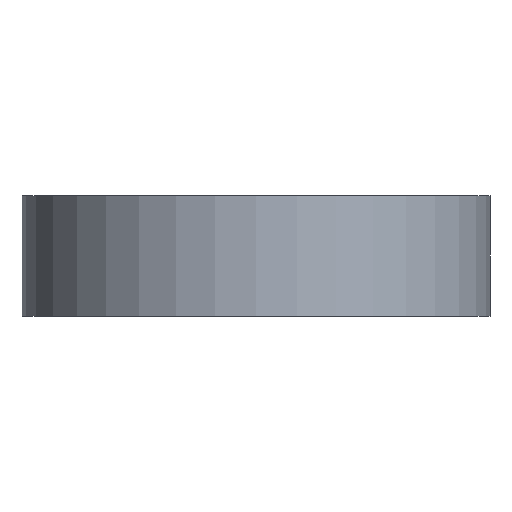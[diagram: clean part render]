
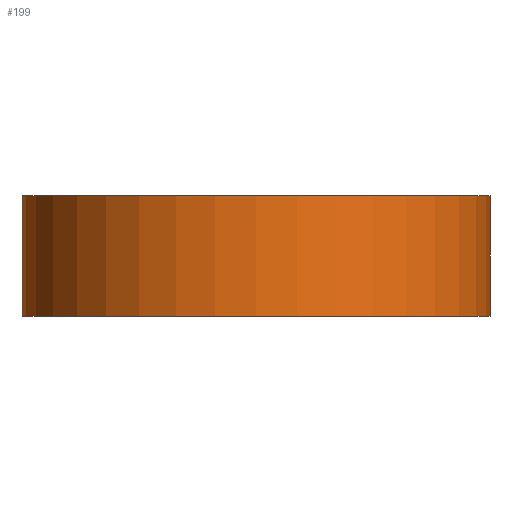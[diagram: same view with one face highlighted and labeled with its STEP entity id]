
A CAD part, front view. The second image highlights one B-rep face of the part: STEP entity #199.
In plain terms, the highlighted cylindrical face has radius 31 mm (diameter 62 mm), a full revolution.
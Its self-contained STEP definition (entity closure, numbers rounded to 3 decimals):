
#199 = ADVANCED_FACE('',(#200),#213,.T.);
#200 = FACE_BOUND('',#201,.T.);
#201 = EDGE_LOOP('',(#202,#236,#259,#286));
#202 = ORIENTED_EDGE('',*,*,#203,.F.);
#203 = EDGE_CURVE('',#204,#204,#206,.T.);
#204 = VERTEX_POINT('',#205);
#205 = CARTESIAN_POINT('',(31.,0.,8.));
#206 = SURFACE_CURVE('',#207,(#212,#224),.PCURVE_S1.);
#207 = CIRCLE('',#208,31.);
#208 = AXIS2_PLACEMENT_3D('',#209,#210,#211);
#209 = CARTESIAN_POINT('',(0.,0.,8.));
#210 = DIRECTION('',(0.,0.,1.));
#211 = DIRECTION('',(1.,0.,-0.));
#212 = PCURVE('',#213,#218);
#213 = CYLINDRICAL_SURFACE('',#214,31.);
#214 = AXIS2_PLACEMENT_3D('',#215,#216,#217);
#215 = CARTESIAN_POINT('',(0.,0.,-8.));
#216 = DIRECTION('',(0.,0.,1.));
#217 = DIRECTION('',(1.,0.,-0.));
#218 = DEFINITIONAL_REPRESENTATION('',(#219),#223);
#219 = LINE('',#220,#221);
#220 = CARTESIAN_POINT('',(0.,16.));
#221 = VECTOR('',#222,1.);
#222 = DIRECTION('',(1.,0.));
#223 = ( GEOMETRIC_REPRESENTATION_CONTEXT(2) 
PARAMETRIC_REPRESENTATION_CONTEXT() REPRESENTATION_CONTEXT('2D SPACE',''
  ) );
#224 = PCURVE('',#225,#230);
#225 = PLANE('',#226);
#226 = AXIS2_PLACEMENT_3D('',#227,#228,#229);
#227 = CARTESIAN_POINT('',(0.,0.,8.));
#228 = DIRECTION('',(0.,0.,1.));
#229 = DIRECTION('',(1.,0.,-0.));
#230 = DEFINITIONAL_REPRESENTATION('',(#231),#235);
#231 = CIRCLE('',#232,31.);
#232 = AXIS2_PLACEMENT_2D('',#233,#234);
#233 = CARTESIAN_POINT('',(0.,0.));
#234 = DIRECTION('',(1.,0.));
#235 = ( GEOMETRIC_REPRESENTATION_CONTEXT(2) 
PARAMETRIC_REPRESENTATION_CONTEXT() REPRESENTATION_CONTEXT('2D SPACE',''
  ) );
#236 = ORIENTED_EDGE('',*,*,#237,.F.);
#237 = EDGE_CURVE('',#238,#204,#240,.T.);
#238 = VERTEX_POINT('',#239);
#239 = CARTESIAN_POINT('',(31.,0.,-8.));
#240 = SEAM_CURVE('',#241,(#245,#252),.PCURVE_S1.);
#241 = LINE('',#242,#243);
#242 = CARTESIAN_POINT('',(31.,0.,-8.));
#243 = VECTOR('',#244,1.);
#244 = DIRECTION('',(0.,0.,1.));
#245 = PCURVE('',#213,#246);
#246 = DEFINITIONAL_REPRESENTATION('',(#247),#251);
#247 = LINE('',#248,#249);
#248 = CARTESIAN_POINT('',(6.283,-0.));
#249 = VECTOR('',#250,1.);
#250 = DIRECTION('',(0.,1.));
#251 = ( GEOMETRIC_REPRESENTATION_CONTEXT(2) 
PARAMETRIC_REPRESENTATION_CONTEXT() REPRESENTATION_CONTEXT('2D SPACE',''
  ) );
#252 = PCURVE('',#213,#253);
#253 = DEFINITIONAL_REPRESENTATION('',(#254),#258);
#254 = LINE('',#255,#256);
#255 = CARTESIAN_POINT('',(0.,-0.));
#256 = VECTOR('',#257,1.);
#257 = DIRECTION('',(0.,1.));
#258 = ( GEOMETRIC_REPRESENTATION_CONTEXT(2) 
PARAMETRIC_REPRESENTATION_CONTEXT() REPRESENTATION_CONTEXT('2D SPACE',''
  ) );
#259 = ORIENTED_EDGE('',*,*,#260,.T.);
#260 = EDGE_CURVE('',#238,#238,#261,.T.);
#261 = SURFACE_CURVE('',#262,(#267,#274),.PCURVE_S1.);
#262 = CIRCLE('',#263,31.);
#263 = AXIS2_PLACEMENT_3D('',#264,#265,#266);
#264 = CARTESIAN_POINT('',(0.,0.,-8.));
#265 = DIRECTION('',(0.,0.,1.));
#266 = DIRECTION('',(1.,0.,-0.));
#267 = PCURVE('',#213,#268);
#268 = DEFINITIONAL_REPRESENTATION('',(#269),#273);
#269 = LINE('',#270,#271);
#270 = CARTESIAN_POINT('',(0.,0.));
#271 = VECTOR('',#272,1.);
#272 = DIRECTION('',(1.,0.));
#273 = ( GEOMETRIC_REPRESENTATION_CONTEXT(2) 
PARAMETRIC_REPRESENTATION_CONTEXT() REPRESENTATION_CONTEXT('2D SPACE',''
  ) );
#274 = PCURVE('',#275,#280);
#275 = PLANE('',#276);
#276 = AXIS2_PLACEMENT_3D('',#277,#278,#279);
#277 = CARTESIAN_POINT('',(0.,0.,-8.));
#278 = DIRECTION('',(0.,0.,1.));
#279 = DIRECTION('',(1.,0.,-0.));
#280 = DEFINITIONAL_REPRESENTATION('',(#281),#285);
#281 = CIRCLE('',#282,31.);
#282 = AXIS2_PLACEMENT_2D('',#283,#284);
#283 = CARTESIAN_POINT('',(0.,0.));
#284 = DIRECTION('',(1.,0.));
#285 = ( GEOMETRIC_REPRESENTATION_CONTEXT(2) 
PARAMETRIC_REPRESENTATION_CONTEXT() REPRESENTATION_CONTEXT('2D SPACE',''
  ) );
#286 = ORIENTED_EDGE('',*,*,#237,.T.);
